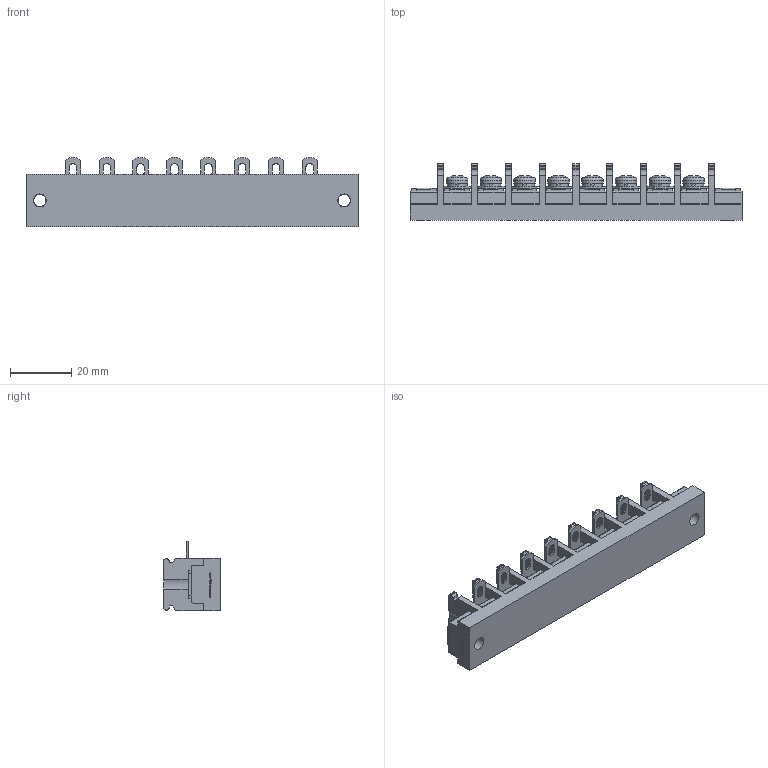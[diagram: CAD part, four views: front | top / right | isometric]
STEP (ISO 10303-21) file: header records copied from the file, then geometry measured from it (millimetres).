
FILE_DESCRIPTION(/* description */ ('Alibre Inc.'),/* implementation_level */ '2;1');
FILE_NAME(/* name */ 'export0',/* time_stamp */ '2015-10-19T19:33:13+09:00',/* author */ (''),/* organization */ (''),/* preprocessor_version */ 'ST-DEVELOPER v14',/* originating_system */ 'Alibre',/* authorisation */ '');
FILE_SCHEMA (('CONFIG_CONTROL_DESIGN'));
Length unit declared in the file: centimetre
Products named in the file (1): ID_1
Bounding box: 108 x 18.5 x 22.5 mm (x, y, z)
Volume: 20006.3 mm3; surface area: 12218.2 mm2
Topology: 1 solids, 1 shells, 1532 faces, 4268 edges, 2774 vertices
Faces by surface type: plane 1198, cylinder 174, bspline 104, cone 32, torus 16, sphere 8
Full cylindrical faces by diameter (mm): 4 x10, 4.2 x10, 6.5 x8, 7 x8
Entity records: 45680 total; most frequent: CARTESIAN_POINT 9261, ORIENTED_EDGE 8396, DIRECTION 5795, EDGE_CURVE 4198, VECTOR 3091, LINE 3091, VERTEX_POINT 2748, AXIS2_PLACEMENT_3D 1854
